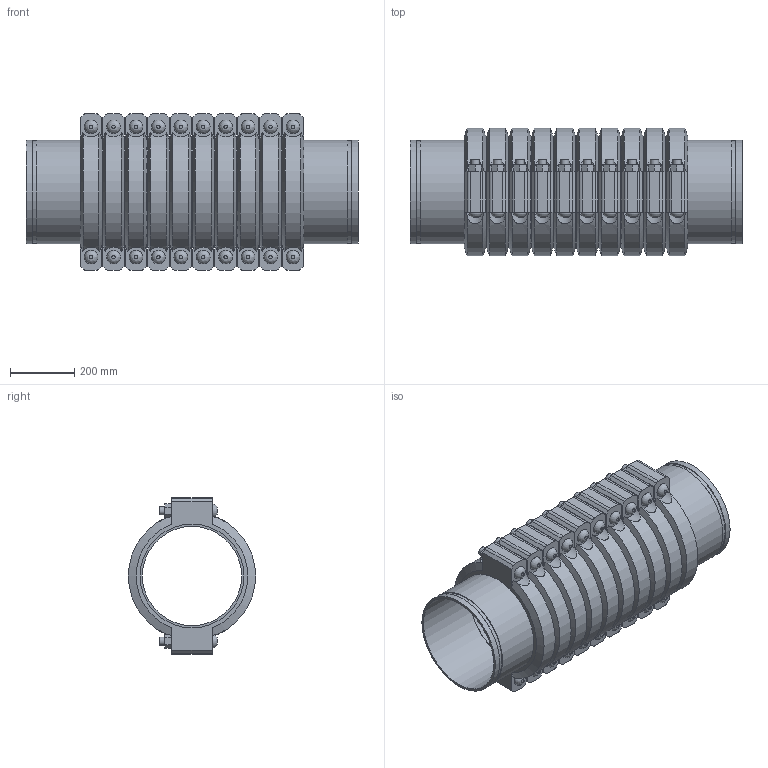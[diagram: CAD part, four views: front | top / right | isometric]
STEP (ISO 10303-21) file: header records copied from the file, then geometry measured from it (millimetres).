
FILE_DESCRIPTION(/* description */ ('VIC EXPANSION JOINT 10 COUPLINGS COMPRESSED STYLE 155 (OGS)','CAx-IF Rec.Pracs.---Representation and Presentation of Product Manufacturing Information (PMI)---4.0---2014-10-13'),/* implementation_level */ '2;1');
FILE_NAME(/* name */ 'C:\Users\kkamble\AppData\Roaming\Autodesk\ApplicationPlugins\Victaulic.Temp\A539\Victaulic_IPS_Expansion Joint_Compressed_10 Couplings_Style 155 (OGS)_12 (300).stp',/* time_stamp */ '2021-06-27T00:17:21+02:00',/* author */ ('kkamble'),/* organization */ ('Victaulic'),/* preprocessor_version */ 'ST-DEVELOPER v17.2',/* originating_system */ 'Autodesk Inventor 2019',/* authorisation */ '');
FILE_SCHEMA (('AP242_MANAGED_MODEL_BASED_3D_ENGINEERING_MIM_LF { 1 0 10303 442 1 1 4 }'));
Length unit declared in the file: inch
Products named in the file (4): 155-12.0; Nipple-12.0; Nipple-12.0_1; 077-10 Coup-12.0
Assembly tree (21 placements, depth 2):
  155-12.0
    Nipple-12.0  x2
    Nipple-12.0_1  x9
    077-10 Coup-12.0  x10
Bounding box: 1035.05 x 397 x 488.95 mm (x, y, z)
Volume: 40435090.1 mm3; surface area: 5428661.3 mm2
Topology: 21 solids, 41 shells, 702 faces, 1720 edges, 1204 vertices
Faces by surface type: plane 406, cylinder 236, cone 40, bspline 20
Full cylindrical faces by diameter (mm): 25.4 x40, 27.432 x20, 309.677 x11, 318.287 x22, 323.85 x43
Entity records: 3043 total; most frequent: CARTESIAN_POINT 655, DIRECTION 479, ORIENTED_EDGE 398, EDGE_CURVE 199, AXIS2_PLACEMENT_3D 196, VERTEX_POINT 142, EDGE_LOOP 105, CIRCLE 92
